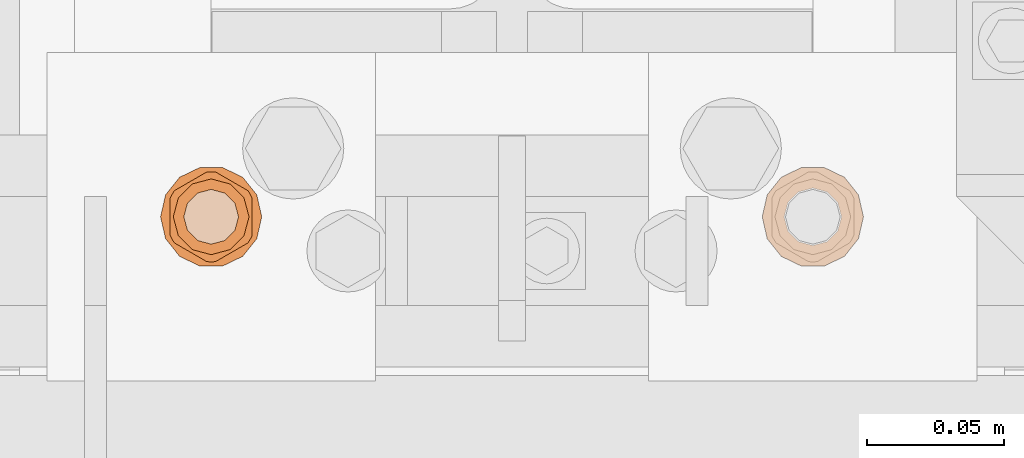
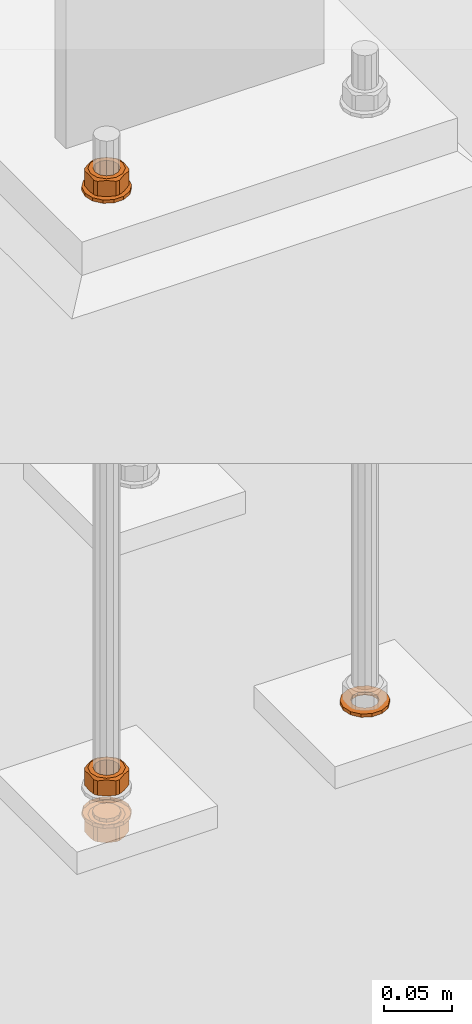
# One storey, part 142 of 145: 6 proxies.
"""IFC2X3 building model written with IfcOpenShell, lengths in millimetres."""

from ifc_helpers import new_model, entity, si_unit, converted_unit, origin_with_axes, place, context, project, spatial, faceted_brep, material, element, save


model = new_model("IFC2X3")

# Units and contexts
model_context = context("Model", 3, precision=1e-09, world=origin_with_axes())
ifc_project = project(units=[si_unit("LENGTHUNIT", "METRE", prefix="MILLI"), si_unit("AREAUNIT", "SQUARE_METRE"), si_unit("VOLUMEUNIT", "CUBIC_METRE"), converted_unit("PLANEANGLEUNIT", "DEGREE", entity("IfcPlaneAngleMeasure", 0.01745329), si_unit("PLANEANGLEUNIT", "RADIAN"), dimensions=[0, 0, 0, 0, 0, 0, 0])], contexts=[model_context])

# Site, building, storey
site_placement = place(None, origin_with_axes())
site = spatial("IfcSite", under=ifc_project, at=site_placement, Name="BZ1 Grund- und Mittelschule 85716 Unterschlei?heim", CompositionType="ELEMENT")
building_placement = place(site_placement, origin_with_axes())
building = spatial("IfcBuilding", under=site, at=building_placement, Name="Struktur 1", CompositionType="ELEMENT")
storey_placement = place(building_placement, origin_with_axes())
storey = spatial("IfcBuildingStorey", under=building, at=storey_placement, Name="Default Storey", CompositionType="ELEMENT", Elevation=0.0)

# Proxies
ifc_material = material(Name="A2")
proxy_1_placement = place(None, origin_with_axes())
element("IfcBuildingElementProxy", 1, at=proxy_1_placement, inside=storey, material=ifc_material, ObjectType="-", context=model_context, shape_type="Brep", body=[
    faceted_brep([(20112.379288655, -1850.538117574, -707.0), (20104.961364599, -1846.965833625, -707.0), (20096.728090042, -1846.965833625, -707.0), (20089.310165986, -1850.538117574, -707.0), (20084.176803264, -1856.975150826, -707.0), (20082.344727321, -1865.002, -707.0), (20084.176803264, -1873.028849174, -707.0), (20089.310165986, -1879.465882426, -707.0), (20096.728090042, -1883.038166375, -707.0), (20104.961364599, -1883.038166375, -707.0), (20112.379288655, -1879.465882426, -707.0), (20117.512651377, -1873.028849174, -707.0), (20119.344727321, -1865.002, -707.0), (20117.512651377, -1856.975150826, -707.0), (20100.844727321, -1854.502, -707.0), (20106.094727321, -1855.90873326, -707.0), (20109.93799406, -1859.752, -707.0), (20111.344727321, -1865.002, -707.0), (20109.93799406, -1870.252, -707.0), (20106.094727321, -1874.09526674, -707.0), (20100.844727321, -1875.502, -707.0), (20095.594727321, -1874.09526674, -707.0), (20091.751460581, -1870.252, -707.0), (20090.344727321, -1865.002, -707.0), (20091.751460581, -1859.752, -707.0), (20095.594727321, -1855.90873326, -707.0), (20089.310165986, -1850.538117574, -710.0), (20096.728090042, -1846.965833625, -710.0), (20104.961364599, -1846.965833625, -710.0), (20112.379288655, -1850.538117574, -710.0), (20117.512651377, -1856.975150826, -710.0), (20119.344727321, -1865.002, -710.0), (20117.512651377, -1873.028849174, -710.0), (20112.379288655, -1879.465882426, -710.0), (20104.961364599, -1883.038166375, -710.0), (20096.728090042, -1883.038166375, -710.0), (20089.310165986, -1879.465882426, -710.0), (20084.176803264, -1873.028849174, -710.0), (20082.344727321, -1865.002, -710.0), (20084.176803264, -1856.975150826, -710.0), (20100.844727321, -1854.502, -710.0), (20095.594727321, -1855.90873326, -710.0), (20091.751460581, -1859.752, -710.0), (20090.344727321, -1865.002, -710.0), (20091.751460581, -1870.252, -710.0), (20095.594727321, -1874.09526674, -710.0), (20100.844727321, -1875.502, -710.0), (20106.094727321, -1874.09526674, -710.0), (20109.93799406, -1870.252, -710.0), (20111.344727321, -1865.002, -710.0), (20109.93799406, -1859.752, -710.0), (20106.094727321, -1855.90873326, -710.0)], [[[0, 1, 2, 3, 4, 5, 6, 7, 8, 9, 10, 11, 12, 13], [14, 15, 16, 17, 18, 19, 20, 21, 22, 23, 24, 25]], [[26, 3, 2, 27]], [[26, 27, 28, 29, 30, 31, 32, 33, 34, 35, 36, 37, 38, 39], [40, 41, 42, 43, 44, 45, 46, 47, 48, 49, 50, 51]], [[3, 26, 39, 4]], [[41, 25, 24, 42]], [[4, 39, 38, 5]], [[25, 41, 40, 14]], [[27, 2, 1, 28]], [[42, 24, 23, 43]], [[5, 38, 37, 6]], [[14, 40, 51, 15]], [[28, 1, 0, 29]], [[43, 23, 22, 44]], [[6, 37, 36, 7]], [[15, 51, 50, 16]], [[29, 0, 13, 30]], [[44, 22, 21, 45]], [[7, 36, 35, 8]], [[16, 50, 49, 17]], [[12, 31, 30, 13]], [[45, 21, 20, 46]], [[8, 35, 34, 9]], [[31, 12, 11, 32]], [[17, 49, 48, 18]], [[10, 33, 32, 11]], [[9, 34, 33, 10]], [[46, 20, 19, 47]], [[18, 48, 47, 19]]]),
])
proxy_2_placement = place(None, origin_with_axes())
element("IfcBuildingElementProxy", 2, at=proxy_2_placement, inside=storey, material=ifc_material, ObjectType="-", context=model_context, shape_type="Brep", body=[
    faceted_brep([(20115.371914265, -1872.772872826, -705.484455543), (20114.838094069, -1873.697476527, -705.484455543), (20112.839179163, -1871.927, -707.0), (20115.371914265, -1872.772872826, -692.515544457), (20114.838094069, -1873.697476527, -692.515544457), (20114.245508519, -1874.585563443, -705.484455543), (20114.245508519, -1874.585563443, -692.515544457), (20115.844727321, -1871.815635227, -705.484455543), (20115.844727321, -1871.815635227, -692.515544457), (20112.839179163, -1871.927, -691.0), (20115.844727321, -1865.002, -706.33604719), (20114.694727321, -1865.002, -707.0), (20108.344727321, -1877.992381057, -706.33604719), (20108.344727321, -1877.992381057, -691.66395281), (20102.443946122, -1881.39919867, -692.515544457), (20102.443946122, -1881.39919867, -705.484455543), (20101.378547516, -1881.468349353, -705.484455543), (20101.378547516, -1881.468349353, -692.515544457), (20100.310907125, -1881.468349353, -692.515544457), (20100.310907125, -1881.468349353, -705.484455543), (20115.844727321, -1858.188364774, -705.484455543), (20115.844727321, -1858.188364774, -692.515544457), (20115.844727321, -1865.002, -691.66395281), (20107.769727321, -1853.007548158, -707.0), (20112.839179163, -1858.077, -707.0), (20107.769727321, -1876.996451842, -707.0), (20100.844727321, -1878.852, -707.0), (20093.919727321, -1876.996451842, -707.0), (20088.850275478, -1871.927, -707.0), (20086.994727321, -1865.002, -707.0), (20088.850275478, -1858.077, -707.0), (20093.919727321, -1853.007548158, -707.0), (20100.844727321, -1851.152, -707.0), (20110.844727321, -1865.002, -707.0), (20109.504981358, -1860.002, -707.0), (20105.844727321, -1856.341745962, -707.0), (20100.844727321, -1855.002, -707.0), (20095.844727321, -1856.341745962, -707.0), (20092.184473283, -1860.002, -707.0), (20090.844727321, -1865.002, -707.0), (20092.184473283, -1870.002, -707.0), (20095.844727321, -1873.662254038, -707.0), (20100.844727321, -1875.002, -707.0), (20105.844727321, -1873.662254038, -707.0), (20109.504981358, -1870.002, -707.0), (20109.504981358, -1870.002, -691.0), (20105.844727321, -1873.662254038, -691.0), (20107.769727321, -1876.996451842, -691.0), (20100.844727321, -1878.852, -691.0), (20115.371914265, -1857.231127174, -705.484455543), (20115.371914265, -1857.231127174, -692.515544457), (20114.694727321, -1865.002, -691.0), (20112.839179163, -1858.077, -691.0), (20107.769727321, -1853.007548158, -691.0), (20100.844727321, -1851.152, -691.0), (20093.919727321, -1853.007548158, -691.0), (20088.850275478, -1858.077, -691.0), (20086.994727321, -1865.002, -691.0), (20088.850275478, -1871.927, -691.0), (20093.919727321, -1876.996451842, -691.0), (20110.844727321, -1865.002, -691.0), (20100.844727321, -1875.002, -691.0), (20095.844727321, -1873.662254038, -691.0), (20092.184473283, -1870.002, -691.0), (20090.844727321, -1865.002, -691.0), (20092.184473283, -1860.002, -691.0), (20095.844727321, -1856.341745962, -691.0), (20100.844727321, -1855.002, -691.0), (20105.844727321, -1856.341745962, -691.0), (20109.504981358, -1860.002, -691.0), (20099.245508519, -1881.39919867, -705.484455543), (20099.245508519, -1881.39919867, -692.515544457), (20114.838094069, -1856.306523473, -705.484455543), (20114.838094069, -1856.306523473, -692.515544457), (20093.344727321, -1877.992381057, -706.33604719), (20093.344727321, -1877.992381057, -691.66395281), (20087.443946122, -1874.585563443, -692.515544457), (20087.443946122, -1874.585563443, -705.484455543), (20114.245508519, -1855.418436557, -705.484455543), (20114.245508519, -1855.418436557, -692.515544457), (20108.344727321, -1852.011618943, -706.33604719), (20102.443946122, -1848.60480133, -705.484455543), (20102.443946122, -1848.60480133, -692.515544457), (20108.344727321, -1852.011618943, -691.66395281), (20086.851360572, -1873.697476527, -692.515544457), (20086.851360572, -1873.697476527, -705.484455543), (20086.317540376, -1872.772872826, -692.515544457), (20086.317540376, -1872.772872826, -705.484455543), (20101.378547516, -1848.535650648, -705.484455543), (20101.378547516, -1848.535650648, -692.515544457), (20100.310907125, -1848.535650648, -705.484455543), (20100.310907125, -1848.535650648, -692.515544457), (20085.844727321, -1871.815635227, -692.515544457), (20085.844727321, -1871.815635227, -705.484455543), (20099.245508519, -1848.60480133, -705.484455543), (20099.245508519, -1848.60480133, -692.515544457), (20085.844727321, -1865.002, -706.33604719), (20093.344727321, -1852.011618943, -706.33604719), (20087.443946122, -1855.418436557, -705.484455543), (20087.443946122, -1855.418436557, -692.515544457), (20093.344727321, -1852.011618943, -691.66395281), (20085.844727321, -1865.002, -691.66395281), (20085.844727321, -1858.188364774, -692.515544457), (20085.844727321, -1858.188364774, -705.484455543), (20086.317540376, -1857.231127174, -705.484455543), (20086.317540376, -1857.231127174, -692.515544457), (20086.851360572, -1856.306523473, -705.484455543), (20086.851360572, -1856.306523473, -692.515544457)], [[[0, 1, 2]], [[0, 3, 4, 1]], [[5, 2, 1]], [[1, 4, 6, 5]], [[7, 0, 2]], [[3, 0, 7, 8]], [[9, 4, 3]], [[10, 7, 11]], [[7, 2, 11]], [[5, 12, 2]], [[6, 13, 14, 15, 12, 5]], [[9, 6, 4]], [[16, 17, 18, 19]], [[17, 16, 15, 14]], [[10, 20, 21, 22, 8, 7]], [[9, 3, 8]], [[20, 10, 11]], [[23, 24, 11, 2, 25, 26, 27, 28, 29, 30, 31, 32], [33, 34, 35, 36, 37, 38, 39, 40, 41, 42, 43, 44]], [[16, 19, 26]], [[12, 25, 2]], [[45, 44, 43, 46]], [[9, 47, 6]], [[48, 17, 14]], [[49, 50, 21, 20]], [[51, 9, 8]], [[9, 51, 52, 53, 54, 55, 56, 57, 58, 59, 48, 47], [60, 45, 46, 61, 62, 63, 64, 65, 66, 67, 68, 69]], [[44, 45, 60, 33]], [[20, 24, 49]], [[20, 11, 24]], [[70, 26, 19]], [[12, 15, 25]], [[15, 16, 26]], [[48, 14, 13]], [[47, 13, 6]], [[19, 18, 71, 70]], [[48, 18, 17]], [[72, 73, 50, 49]], [[51, 8, 22]], [[72, 49, 24]], [[70, 74, 26]], [[15, 26, 25]], [[46, 43, 42, 61]], [[47, 48, 13]], [[48, 71, 18]], [[71, 75, 76, 77, 74, 70]], [[33, 60, 69, 34]], [[78, 79, 73, 72]], [[52, 50, 73]], [[51, 22, 21]], [[52, 21, 50]], [[78, 72, 24]], [[74, 27, 26]], [[48, 59, 71]], [[80, 81, 82, 83, 79, 78]], [[52, 73, 79]], [[52, 51, 21]], [[78, 24, 23]], [[74, 77, 27]], [[61, 42, 41, 62]], [[59, 75, 71]], [[77, 76, 84, 85]], [[34, 69, 68, 35]], [[52, 79, 83]], [[80, 78, 23]], [[81, 80, 32]], [[77, 28, 27]], [[59, 58, 75]], [[58, 76, 75]], [[77, 85, 28]], [[85, 84, 86, 87]], [[88, 89, 82, 81]], [[53, 52, 83]], [[80, 23, 32]], [[81, 32, 88]], [[62, 41, 40, 63]], [[58, 84, 76]], [[85, 87, 28]], [[35, 68, 67, 36]], [[90, 91, 89, 88]], [[53, 83, 82]], [[54, 82, 89]], [[90, 88, 32]], [[86, 84, 58]], [[87, 86, 92, 93]], [[93, 28, 87]], [[39, 64, 63, 40]], [[91, 90, 94, 95]], [[54, 89, 91]], [[54, 53, 82]], [[94, 90, 32]], [[92, 86, 58]], [[93, 96, 28]], [[64, 39, 38, 65]], [[37, 66, 65, 38]], [[36, 67, 66, 37]], [[54, 91, 95]], [[94, 32, 31]], [[97, 98, 99, 100, 95, 94]], [[96, 29, 28]], [[92, 58, 57]], [[92, 101, 102, 103, 96, 93]], [[54, 95, 100]], [[97, 94, 31]], [[96, 103, 29]], [[101, 92, 57]], [[55, 54, 100]], [[97, 31, 30]], [[103, 30, 29]], [[101, 57, 56]], [[55, 100, 99]], [[98, 97, 30]], [[103, 104, 30]], [[103, 102, 105, 104]], [[102, 101, 56]], [[99, 56, 55]], [[98, 30, 106]], [[99, 98, 106, 107]], [[104, 106, 30]], [[102, 56, 105]], [[99, 107, 56]], [[104, 105, 107, 106]], [[107, 105, 56]]]),
])
proxy_3_placement = place(None, origin_with_axes())
element("IfcBuildingElementProxy", 3, at=proxy_3_placement, inside=storey, material=ifc_material, ObjectType="-", context=model_context, shape_type="Brep", body=[
    faceted_brep([(20332.379288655, -1850.538117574, -1247.0), (20324.961364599, -1846.965833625, -1247.0), (20316.728090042, -1846.965833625, -1247.0), (20309.310165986, -1850.538117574, -1247.0), (20304.176803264, -1856.975150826, -1247.0), (20302.344727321, -1865.002, -1247.0), (20304.176803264, -1873.028849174, -1247.0), (20309.310165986, -1879.465882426, -1247.0), (20316.728090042, -1883.038166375, -1247.0), (20324.961364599, -1883.038166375, -1247.0), (20332.379288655, -1879.465882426, -1247.0), (20337.512651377, -1873.028849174, -1247.0), (20339.344727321, -1865.002, -1247.0), (20337.512651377, -1856.975150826, -1247.0), (20320.844727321, -1854.502, -1247.0), (20326.094727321, -1855.90873326, -1247.0), (20329.93799406, -1859.752, -1247.0), (20331.344727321, -1865.002, -1247.0), (20329.93799406, -1870.252, -1247.0), (20326.094727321, -1874.09526674, -1247.0), (20320.844727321, -1875.502, -1247.0), (20315.594727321, -1874.09526674, -1247.0), (20311.751460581, -1870.252, -1247.0), (20310.344727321, -1865.002, -1247.0), (20311.751460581, -1859.752, -1247.0), (20315.594727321, -1855.90873326, -1247.0), (20309.310165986, -1850.538117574, -1250.0), (20316.728090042, -1846.965833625, -1250.0), (20324.961364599, -1846.965833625, -1250.0), (20332.379288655, -1850.538117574, -1250.0), (20337.512651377, -1856.975150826, -1250.0), (20339.344727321, -1865.002, -1250.0), (20337.512651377, -1873.028849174, -1250.0), (20332.379288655, -1879.465882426, -1250.0), (20324.961364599, -1883.038166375, -1250.0), (20316.728090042, -1883.038166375, -1250.0), (20309.310165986, -1879.465882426, -1250.0), (20304.176803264, -1873.028849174, -1250.0), (20302.344727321, -1865.002, -1250.0), (20304.176803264, -1856.975150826, -1250.0), (20320.844727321, -1854.502, -1250.0), (20315.594727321, -1855.90873326, -1250.0), (20311.751460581, -1859.752, -1250.0), (20310.344727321, -1865.002, -1250.0), (20311.751460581, -1870.252, -1250.0), (20315.594727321, -1874.09526674, -1250.0), (20320.844727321, -1875.502, -1250.0), (20326.094727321, -1874.09526674, -1250.0), (20329.93799406, -1870.252, -1250.0), (20331.344727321, -1865.002, -1250.0), (20329.93799406, -1859.752, -1250.0), (20326.094727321, -1855.90873326, -1250.0)], [[[0, 1, 2, 3, 4, 5, 6, 7, 8, 9, 10, 11, 12, 13], [14, 15, 16, 17, 18, 19, 20, 21, 22, 23, 24, 25]], [[26, 3, 2, 27]], [[26, 27, 28, 29, 30, 31, 32, 33, 34, 35, 36, 37, 38, 39], [40, 41, 42, 43, 44, 45, 46, 47, 48, 49, 50, 51]], [[3, 26, 39, 4]], [[41, 25, 24, 42]], [[4, 39, 38, 5]], [[25, 41, 40, 14]], [[27, 2, 1, 28]], [[42, 24, 23, 43]], [[5, 38, 37, 6]], [[14, 40, 51, 15]], [[28, 1, 0, 29]], [[43, 23, 22, 44]], [[6, 37, 36, 7]], [[15, 51, 50, 16]], [[29, 0, 13, 30]], [[44, 22, 21, 45]], [[7, 36, 35, 8]], [[16, 50, 49, 17]], [[12, 31, 30, 13]], [[45, 21, 20, 46]], [[8, 35, 34, 9]], [[31, 12, 11, 32]], [[17, 49, 48, 18]], [[10, 33, 32, 11]], [[9, 34, 33, 10]], [[46, 20, 19, 47]], [[18, 48, 47, 19]]]),
])
proxy_4_placement = place(None, origin_with_axes())
element("IfcBuildingElementProxy", 4, at=proxy_4_placement, inside=storey, material=ifc_material, ObjectType="-", context=model_context, shape_type="Brep", body=[
    faceted_brep([(20115.371914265, -1872.772872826, -1245.484455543), (20114.838094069, -1873.697476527, -1245.484455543), (20112.839179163, -1871.927, -1247.0), (20115.371914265, -1872.772872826, -1232.515544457), (20114.838094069, -1873.697476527, -1232.515544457), (20114.245508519, -1874.585563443, -1245.484455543), (20114.245508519, -1874.585563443, -1232.515544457), (20115.844727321, -1871.815635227, -1245.484455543), (20115.844727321, -1871.815635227, -1232.515544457), (20112.839179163, -1871.927, -1231.0), (20115.844727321, -1865.002, -1246.33604719), (20114.694727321, -1865.002, -1247.0), (20108.344727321, -1877.992381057, -1246.33604719), (20108.344727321, -1877.992381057, -1231.66395281), (20102.443946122, -1881.39919867, -1232.515544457), (20102.443946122, -1881.39919867, -1245.484455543), (20101.378547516, -1881.468349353, -1245.484455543), (20101.378547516, -1881.468349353, -1232.515544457), (20100.310907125, -1881.468349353, -1232.515544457), (20100.310907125, -1881.468349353, -1245.484455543), (20115.844727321, -1858.188364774, -1245.484455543), (20115.844727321, -1858.188364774, -1232.515544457), (20115.844727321, -1865.002, -1231.66395281), (20107.769727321, -1853.007548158, -1247.0), (20112.839179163, -1858.077, -1247.0), (20107.769727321, -1876.996451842, -1247.0), (20100.844727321, -1878.852, -1247.0), (20093.919727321, -1876.996451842, -1247.0), (20088.850275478, -1871.927, -1247.0), (20086.994727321, -1865.002, -1247.0), (20088.850275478, -1858.077, -1247.0), (20093.919727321, -1853.007548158, -1247.0), (20100.844727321, -1851.152, -1247.0), (20110.844727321, -1865.002, -1247.0), (20109.504981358, -1860.002, -1247.0), (20105.844727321, -1856.341745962, -1247.0), (20100.844727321, -1855.002, -1247.0), (20095.844727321, -1856.341745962, -1247.0), (20092.184473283, -1860.002, -1247.0), (20090.844727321, -1865.002, -1247.0), (20092.184473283, -1870.002, -1247.0), (20095.844727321, -1873.662254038, -1247.0), (20100.844727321, -1875.002, -1247.0), (20105.844727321, -1873.662254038, -1247.0), (20109.504981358, -1870.002, -1247.0), (20109.504981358, -1870.002, -1231.0), (20105.844727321, -1873.662254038, -1231.0), (20107.769727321, -1876.996451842, -1231.0), (20100.844727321, -1878.852, -1231.0), (20115.371914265, -1857.231127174, -1245.484455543), (20115.371914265, -1857.231127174, -1232.515544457), (20114.694727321, -1865.002, -1231.0), (20112.839179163, -1858.077, -1231.0), (20107.769727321, -1853.007548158, -1231.0), (20100.844727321, -1851.152, -1231.0), (20093.919727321, -1853.007548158, -1231.0), (20088.850275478, -1858.077, -1231.0), (20086.994727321, -1865.002, -1231.0), (20088.850275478, -1871.927, -1231.0), (20093.919727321, -1876.996451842, -1231.0), (20110.844727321, -1865.002, -1231.0), (20100.844727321, -1875.002, -1231.0), (20095.844727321, -1873.662254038, -1231.0), (20092.184473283, -1870.002, -1231.0), (20090.844727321, -1865.002, -1231.0), (20092.184473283, -1860.002, -1231.0), (20095.844727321, -1856.341745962, -1231.0), (20100.844727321, -1855.002, -1231.0), (20105.844727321, -1856.341745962, -1231.0), (20109.504981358, -1860.002, -1231.0), (20099.245508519, -1881.39919867, -1245.484455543), (20099.245508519, -1881.39919867, -1232.515544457), (20114.838094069, -1856.306523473, -1245.484455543), (20114.838094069, -1856.306523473, -1232.515544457), (20093.344727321, -1877.992381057, -1246.33604719), (20093.344727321, -1877.992381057, -1231.66395281), (20087.443946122, -1874.585563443, -1232.515544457), (20087.443946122, -1874.585563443, -1245.484455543), (20114.245508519, -1855.418436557, -1245.484455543), (20114.245508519, -1855.418436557, -1232.515544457), (20108.344727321, -1852.011618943, -1246.33604719), (20102.443946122, -1848.60480133, -1245.484455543), (20102.443946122, -1848.60480133, -1232.515544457), (20108.344727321, -1852.011618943, -1231.66395281), (20086.851360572, -1873.697476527, -1232.515544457), (20086.851360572, -1873.697476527, -1245.484455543), (20086.317540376, -1872.772872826, -1232.515544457), (20086.317540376, -1872.772872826, -1245.484455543), (20101.378547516, -1848.535650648, -1245.484455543), (20101.378547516, -1848.535650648, -1232.515544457), (20100.310907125, -1848.535650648, -1245.484455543), (20100.310907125, -1848.535650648, -1232.515544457), (20085.844727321, -1871.815635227, -1232.515544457), (20085.844727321, -1871.815635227, -1245.484455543), (20099.245508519, -1848.60480133, -1245.484455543), (20099.245508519, -1848.60480133, -1232.515544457), (20085.844727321, -1865.002, -1246.33604719), (20093.344727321, -1852.011618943, -1246.33604719), (20087.443946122, -1855.418436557, -1245.484455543), (20087.443946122, -1855.418436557, -1232.515544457), (20093.344727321, -1852.011618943, -1231.66395281), (20085.844727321, -1865.002, -1231.66395281), (20085.844727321, -1858.188364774, -1232.515544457), (20085.844727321, -1858.188364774, -1245.484455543), (20086.317540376, -1857.231127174, -1245.484455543), (20086.317540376, -1857.231127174, -1232.515544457), (20086.851360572, -1856.306523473, -1245.484455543), (20086.851360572, -1856.306523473, -1232.515544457)], [[[0, 1, 2]], [[0, 3, 4, 1]], [[5, 2, 1]], [[1, 4, 6, 5]], [[7, 0, 2]], [[3, 0, 7, 8]], [[9, 4, 3]], [[10, 7, 11]], [[7, 2, 11]], [[5, 12, 2]], [[6, 13, 14, 15, 12, 5]], [[9, 6, 4]], [[16, 17, 18, 19]], [[17, 16, 15, 14]], [[10, 20, 21, 22, 8, 7]], [[9, 3, 8]], [[20, 10, 11]], [[23, 24, 11, 2, 25, 26, 27, 28, 29, 30, 31, 32], [33, 34, 35, 36, 37, 38, 39, 40, 41, 42, 43, 44]], [[16, 19, 26]], [[12, 25, 2]], [[45, 44, 43, 46]], [[9, 47, 6]], [[48, 17, 14]], [[49, 50, 21, 20]], [[51, 9, 8]], [[9, 51, 52, 53, 54, 55, 56, 57, 58, 59, 48, 47], [60, 45, 46, 61, 62, 63, 64, 65, 66, 67, 68, 69]], [[44, 45, 60, 33]], [[20, 24, 49]], [[20, 11, 24]], [[70, 26, 19]], [[12, 15, 25]], [[15, 16, 26]], [[48, 14, 13]], [[47, 13, 6]], [[19, 18, 71, 70]], [[48, 18, 17]], [[72, 73, 50, 49]], [[51, 8, 22]], [[72, 49, 24]], [[70, 74, 26]], [[15, 26, 25]], [[46, 43, 42, 61]], [[47, 48, 13]], [[48, 71, 18]], [[71, 75, 76, 77, 74, 70]], [[33, 60, 69, 34]], [[78, 79, 73, 72]], [[52, 50, 73]], [[51, 22, 21]], [[52, 21, 50]], [[78, 72, 24]], [[74, 27, 26]], [[48, 59, 71]], [[80, 81, 82, 83, 79, 78]], [[52, 73, 79]], [[52, 51, 21]], [[78, 24, 23]], [[74, 77, 27]], [[61, 42, 41, 62]], [[59, 75, 71]], [[77, 76, 84, 85]], [[34, 69, 68, 35]], [[52, 79, 83]], [[80, 78, 23]], [[81, 80, 32]], [[77, 28, 27]], [[59, 58, 75]], [[58, 76, 75]], [[77, 85, 28]], [[85, 84, 86, 87]], [[88, 89, 82, 81]], [[53, 52, 83]], [[80, 23, 32]], [[81, 32, 88]], [[62, 41, 40, 63]], [[58, 84, 76]], [[85, 87, 28]], [[35, 68, 67, 36]], [[90, 91, 89, 88]], [[53, 83, 82]], [[54, 82, 89]], [[90, 88, 32]], [[86, 84, 58]], [[87, 86, 92, 93]], [[93, 28, 87]], [[39, 64, 63, 40]], [[91, 90, 94, 95]], [[54, 89, 91]], [[54, 53, 82]], [[94, 90, 32]], [[92, 86, 58]], [[93, 96, 28]], [[64, 39, 38, 65]], [[37, 66, 65, 38]], [[36, 67, 66, 37]], [[54, 91, 95]], [[94, 32, 31]], [[97, 98, 99, 100, 95, 94]], [[96, 29, 28]], [[92, 58, 57]], [[92, 101, 102, 103, 96, 93]], [[54, 95, 100]], [[97, 94, 31]], [[96, 103, 29]], [[101, 92, 57]], [[55, 54, 100]], [[97, 31, 30]], [[103, 30, 29]], [[101, 57, 56]], [[55, 100, 99]], [[98, 97, 30]], [[103, 104, 30]], [[103, 102, 105, 104]], [[102, 101, 56]], [[99, 56, 55]], [[98, 30, 106]], [[99, 98, 106, 107]], [[104, 106, 30]], [[102, 56, 105]], [[99, 107, 56]], [[104, 105, 107, 106]], [[107, 105, 56]]]),
])
proxy_5_placement = place(None, origin_with_axes())
element("IfcBuildingElementProxy", 5, at=proxy_5_placement, inside=storey, material=ifc_material, ObjectType="-", context=model_context, shape_type="Brep", body=[
    faceted_brep([(20114.838094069, -1873.697476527, -1274.515544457), (20115.371914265, -1872.772872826, -1274.515544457), (20112.839179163, -1871.927, -1273.0), (20115.371914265, -1872.772872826, -1287.484455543), (20114.838094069, -1873.697476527, -1287.484455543), (20114.245508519, -1874.585563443, -1274.515544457), (20114.245508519, -1874.585563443, -1287.484455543), (20115.844727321, -1871.815635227, -1274.515544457), (20115.844727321, -1871.815635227, -1287.484455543), (20112.839179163, -1871.927, -1289.0), (20115.844727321, -1865.002, -1273.66395281), (20114.694727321, -1865.002, -1273.0), (20108.344727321, -1877.992381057, -1273.66395281), (20108.344727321, -1877.992381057, -1288.33604719), (20102.443946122, -1881.39919867, -1274.515544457), (20102.443946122, -1881.39919867, -1287.484455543), (20101.378547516, -1881.468349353, -1287.484455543), (20101.378547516, -1881.468349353, -1274.515544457), (20100.310907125, -1881.468349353, -1274.515544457), (20100.310907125, -1881.468349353, -1287.484455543), (20115.844727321, -1858.188364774, -1274.515544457), (20115.844727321, -1865.002, -1288.33604719), (20115.844727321, -1858.188364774, -1287.484455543), (20112.839179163, -1858.077, -1273.0), (20107.769727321, -1853.007548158, -1273.0), (20100.844727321, -1851.152, -1273.0), (20093.919727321, -1853.007548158, -1273.0), (20088.850275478, -1858.077, -1273.0), (20086.994727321, -1865.002, -1273.0), (20088.850275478, -1871.927, -1273.0), (20093.919727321, -1876.996451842, -1273.0), (20100.844727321, -1878.852, -1273.0), (20107.769727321, -1876.996451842, -1273.0), (20110.844727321, -1865.002, -1273.0), (20109.504981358, -1870.002, -1273.0), (20105.844727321, -1873.662254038, -1273.0), (20100.844727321, -1875.002, -1273.0), (20095.844727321, -1873.662254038, -1273.0), (20092.184473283, -1870.002, -1273.0), (20090.844727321, -1865.002, -1273.0), (20092.184473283, -1860.002, -1273.0), (20095.844727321, -1856.341745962, -1273.0), (20100.844727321, -1855.002, -1273.0), (20105.844727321, -1856.341745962, -1273.0), (20109.504981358, -1860.002, -1273.0), (20109.504981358, -1870.002, -1289.0), (20105.844727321, -1873.662254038, -1289.0), (20107.769727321, -1876.996451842, -1289.0), (20100.844727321, -1878.852, -1289.0), (20115.371914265, -1857.231127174, -1287.484455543), (20115.371914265, -1857.231127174, -1274.515544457), (20114.694727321, -1865.002, -1289.0), (20110.844727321, -1865.002, -1289.0), (20109.504981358, -1860.002, -1289.0), (20105.844727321, -1856.341745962, -1289.0), (20100.844727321, -1855.002, -1289.0), (20095.844727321, -1856.341745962, -1289.0), (20092.184473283, -1860.002, -1289.0), (20090.844727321, -1865.002, -1289.0), (20092.184473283, -1870.002, -1289.0), (20095.844727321, -1873.662254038, -1289.0), (20100.844727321, -1875.002, -1289.0), (20099.245508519, -1881.39919867, -1274.515544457), (20099.245508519, -1881.39919867, -1287.484455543), (20114.838094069, -1856.306523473, -1287.484455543), (20114.838094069, -1856.306523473, -1274.515544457), (20093.344727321, -1877.992381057, -1273.66395281), (20093.344727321, -1877.992381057, -1288.33604719), (20087.443946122, -1874.585563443, -1274.515544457), (20087.443946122, -1874.585563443, -1287.484455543), (20114.245508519, -1855.418436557, -1287.484455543), (20114.245508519, -1855.418436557, -1274.515544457), (20112.839179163, -1858.077, -1289.0), (20093.919727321, -1876.996451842, -1289.0), (20102.443946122, -1848.60480133, -1274.515544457), (20108.344727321, -1852.011618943, -1273.66395281), (20108.344727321, -1852.011618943, -1288.33604719), (20102.443946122, -1848.60480133, -1287.484455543), (20086.851360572, -1873.697476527, -1274.515544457), (20086.851360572, -1873.697476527, -1287.484455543), (20088.850275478, -1871.927, -1289.0), (20086.317540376, -1872.772872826, -1274.515544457), (20086.317540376, -1872.772872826, -1287.484455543), (20101.378547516, -1848.535650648, -1287.484455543), (20101.378547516, -1848.535650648, -1274.515544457), (20107.769727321, -1853.007548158, -1289.0), (20100.310907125, -1848.535650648, -1287.484455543), (20100.310907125, -1848.535650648, -1274.515544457), (20100.844727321, -1851.152, -1289.0), (20085.844727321, -1871.815635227, -1274.515544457), (20085.844727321, -1871.815635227, -1287.484455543), (20099.245508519, -1848.60480133, -1287.484455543), (20099.245508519, -1848.60480133, -1274.515544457), (20085.844727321, -1865.002, -1273.66395281), (20087.443946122, -1855.418436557, -1274.515544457), (20093.344727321, -1852.011618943, -1273.66395281), (20093.344727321, -1852.011618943, -1288.33604719), (20087.443946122, -1855.418436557, -1287.484455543), (20086.994727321, -1865.002, -1289.0), (20085.844727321, -1865.002, -1288.33604719), (20085.844727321, -1858.188364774, -1274.515544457), (20085.844727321, -1858.188364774, -1287.484455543), (20093.919727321, -1853.007548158, -1289.0), (20088.850275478, -1858.077, -1289.0), (20086.317540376, -1857.231127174, -1274.515544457), (20086.317540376, -1857.231127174, -1287.484455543), (20086.851360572, -1856.306523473, -1274.515544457), (20086.851360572, -1856.306523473, -1287.484455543)], [[[0, 1, 2]], [[3, 1, 0, 4]], [[2, 5, 0]], [[4, 0, 5, 6]], [[1, 7, 2]], [[1, 3, 8, 7]], [[4, 9, 3]], [[7, 10, 11]], [[2, 7, 11]], [[12, 5, 2]], [[13, 6, 5, 12, 14, 15]], [[6, 9, 4]], [[16, 17, 18, 19]], [[17, 16, 15, 14]], [[20, 10, 7, 8, 21, 22]], [[3, 9, 8]], [[10, 20, 11]], [[23, 24, 25, 26, 27, 28, 29, 30, 31, 32, 2, 11], [33, 34, 35, 36, 37, 38, 39, 40, 41, 42, 43, 44]], [[18, 17, 31]], [[32, 12, 2]], [[34, 45, 46, 35]], [[47, 9, 6]], [[16, 48, 15]], [[49, 50, 20, 22]], [[9, 51, 8]], [[45, 52, 53, 54, 55, 56, 57, 58, 59, 60, 61, 46]], [[45, 34, 33, 52]], [[23, 20, 50]], [[11, 20, 23]], [[31, 62, 18]], [[14, 12, 32]], [[17, 14, 31]], [[15, 48, 13]], [[13, 47, 6]], [[19, 18, 62, 63]], [[19, 48, 16]], [[64, 65, 50, 49]], [[8, 51, 21]], [[50, 65, 23]], [[66, 62, 31]], [[31, 14, 32]], [[35, 46, 61, 36]], [[48, 47, 13]], [[63, 48, 19]], [[67, 63, 62, 66, 68, 69]], [[52, 33, 44, 53]], [[70, 71, 65, 64]], [[49, 72, 64]], [[21, 51, 22]], [[22, 72, 49]], [[65, 71, 23]], [[30, 66, 31]], [[73, 48, 63]], [[74, 75, 71, 70, 76, 77]], [[64, 72, 70]], [[51, 72, 22]], [[23, 71, 24]], [[68, 66, 30]], [[36, 61, 60, 37]], [[67, 73, 63]], [[69, 68, 78, 79]], [[53, 44, 43, 54]], [[70, 72, 76]], [[71, 75, 24]], [[75, 74, 25]], [[29, 68, 30]], [[80, 73, 67]], [[69, 80, 67]], [[78, 68, 29]], [[79, 78, 81, 82]], [[83, 84, 74, 77]], [[72, 85, 76]], [[24, 75, 25]], [[25, 74, 84]], [[37, 60, 59, 38]], [[79, 80, 69]], [[81, 78, 29]], [[54, 43, 42, 55]], [[86, 87, 84, 83]], [[76, 85, 77]], [[77, 88, 83]], [[84, 87, 25]], [[79, 82, 80]], [[82, 81, 89, 90]], [[29, 89, 81]], [[58, 39, 38, 59]], [[87, 86, 91, 92]], [[83, 88, 86]], [[85, 88, 77]], [[87, 92, 25]], [[82, 90, 80]], [[93, 89, 29]], [[39, 58, 57, 40]], [[56, 41, 40, 57]], [[55, 42, 41, 56]], [[86, 88, 91]], [[25, 92, 26]], [[94, 95, 92, 91, 96, 97]], [[28, 93, 29]], [[80, 90, 98]], [[99, 90, 89, 93, 100, 101]], [[91, 88, 96]], [[92, 95, 26]], [[100, 93, 28]], [[90, 99, 98]], [[88, 102, 96]], [[26, 95, 27]], [[27, 100, 28]], [[98, 99, 103]], [[96, 102, 97]], [[95, 94, 27]], [[104, 100, 27]], [[101, 100, 104, 105]], [[99, 101, 103]], [[103, 97, 102]], [[27, 94, 106]], [[94, 97, 107, 106]], [[106, 104, 27]], [[103, 101, 105]], [[107, 97, 103]], [[105, 104, 106, 107]], [[105, 107, 103]]]),
])
proxy_6_placement = place(None, origin_with_axes())
element("IfcBuildingElementProxy", 6, at=proxy_6_placement, inside=storey, material=ifc_material, ObjectType="-", context=model_context, shape_type="Brep", body=[
    faceted_brep([(20104.961364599, -1846.965833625, -1273.0), (20112.379288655, -1850.538117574, -1273.0), (20117.512651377, -1856.975150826, -1273.0), (20119.344727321, -1865.002, -1273.0), (20117.512651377, -1873.028849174, -1273.0), (20112.379288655, -1879.465882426, -1273.0), (20104.961364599, -1883.038166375, -1273.0), (20096.728090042, -1883.038166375, -1273.0), (20089.310165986, -1879.465882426, -1273.0), (20084.176803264, -1873.028849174, -1273.0), (20082.344727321, -1865.002, -1273.0), (20084.176803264, -1856.975150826, -1273.0), (20089.310165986, -1850.538117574, -1273.0), (20096.728090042, -1846.965833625, -1273.0), (20100.844727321, -1854.502, -1273.0), (20095.594727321, -1855.90873326, -1273.0), (20091.751460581, -1859.752, -1273.0), (20090.344727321, -1865.002, -1273.0), (20091.751460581, -1870.252, -1273.0), (20095.594727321, -1874.09526674, -1273.0), (20100.844727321, -1875.502, -1273.0), (20106.094727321, -1874.09526674, -1273.0), (20109.93799406, -1870.252, -1273.0), (20111.344727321, -1865.002, -1273.0), (20109.93799406, -1859.752, -1273.0), (20106.094727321, -1855.90873326, -1273.0), (20089.310165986, -1850.538117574, -1270.0), (20096.728090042, -1846.965833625, -1270.0), (20095.594727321, -1855.90873326, -1270.0), (20100.844727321, -1854.502, -1270.0), (20106.094727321, -1855.90873326, -1270.0), (20109.93799406, -1859.752, -1270.0), (20111.344727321, -1865.002, -1270.0), (20109.93799406, -1870.252, -1270.0), (20106.094727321, -1874.09526674, -1270.0), (20100.844727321, -1875.502, -1270.0), (20095.594727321, -1874.09526674, -1270.0), (20091.751460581, -1870.252, -1270.0), (20090.344727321, -1865.002, -1270.0), (20091.751460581, -1859.752, -1270.0), (20084.176803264, -1856.975150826, -1270.0), (20082.344727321, -1865.002, -1270.0), (20104.961364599, -1846.965833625, -1270.0), (20084.176803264, -1873.028849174, -1270.0), (20112.379288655, -1850.538117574, -1270.0), (20089.310165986, -1879.465882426, -1270.0), (20117.512651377, -1856.975150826, -1270.0), (20096.728090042, -1883.038166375, -1270.0), (20119.344727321, -1865.002, -1270.0), (20104.961364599, -1883.038166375, -1270.0), (20117.512651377, -1873.028849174, -1270.0), (20112.379288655, -1879.465882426, -1270.0)], [[[0, 1, 2, 3, 4, 5, 6, 7, 8, 9, 10, 11, 12, 13], [14, 15, 16, 17, 18, 19, 20, 21, 22, 23, 24, 25]], [[12, 26, 27, 13]], [[28, 29, 30, 31, 32, 33, 34, 35, 36, 37, 38, 39]], [[26, 12, 11, 40]], [[15, 28, 39, 16]], [[40, 11, 10, 41]], [[28, 15, 14, 29]], [[13, 27, 42, 0]], [[16, 39, 38, 17]], [[41, 10, 9, 43]], [[29, 14, 25, 30]], [[0, 42, 44, 1]], [[17, 38, 37, 18]], [[43, 9, 8, 45]], [[30, 25, 24, 31]], [[1, 44, 46, 2]], [[18, 37, 36, 19]], [[45, 8, 7, 47]], [[31, 24, 23, 32]], [[48, 3, 2, 46]], [[19, 36, 35, 20]], [[47, 7, 6, 49]], [[3, 48, 50, 4]], [[32, 23, 22, 33]], [[51, 5, 4, 50]], [[49, 6, 5, 51]], [[20, 35, 34, 21]], [[33, 22, 21, 34]]]),
])

save(model, "model.ifc")
